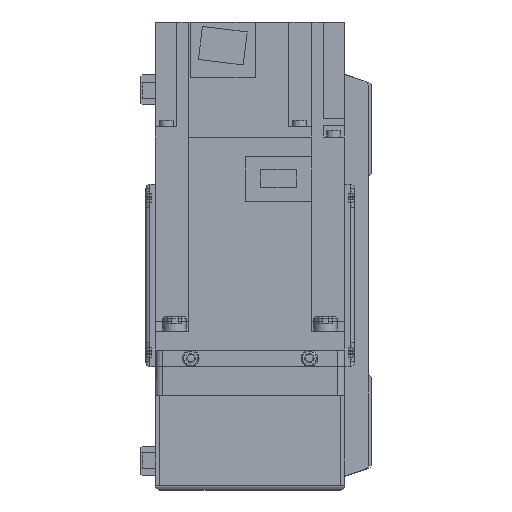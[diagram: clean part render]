
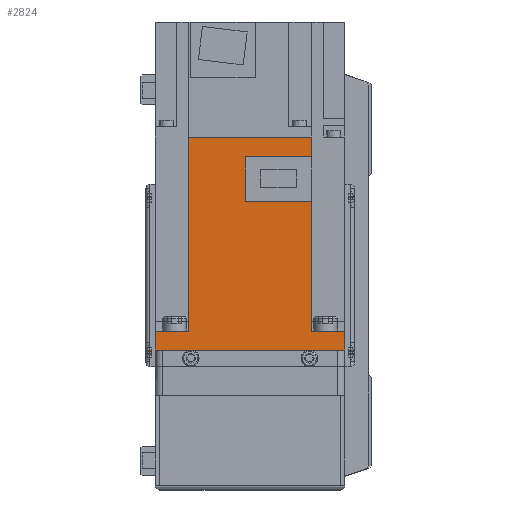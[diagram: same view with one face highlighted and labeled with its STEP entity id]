
A CAD part, left-side view. The second image highlights one B-rep face of the part: STEP entity #2824.
In plain terms, the highlighted planar face has unit normal (-1, 0, 0) as drawn and (1, 0, 0) by its records, which use the part's own axes.
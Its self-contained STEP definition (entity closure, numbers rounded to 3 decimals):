
#2824 = ADVANCED_FACE( '', ( #6148 ), #6149, .F. );
#6148 = FACE_OUTER_BOUND( '', #9828, .T. );
#6149 = PLANE( '', #9829 );
#9828 = EDGE_LOOP( '', ( #17668, #17669, #17670, #17671, #17672, #17673, #17674, #17675, #17676, #17677, #17678, #17679 ) );
#9829 = AXIS2_PLACEMENT_3D( '', #17680, #17681, #17682 );
#17668 = ORIENTED_EDGE( '', *, *, #23790, .F. );
#17669 = ORIENTED_EDGE( '', *, *, #21370, .F. );
#17670 = ORIENTED_EDGE( '', *, *, #21985, .F. );
#17671 = ORIENTED_EDGE( '', *, *, #23159, .T. );
#17672 = ORIENTED_EDGE( '', *, *, #23791, .F. );
#17673 = ORIENTED_EDGE( '', *, *, #21099, .T. );
#17674 = ORIENTED_EDGE( '', *, *, #23634, .T. );
#17675 = ORIENTED_EDGE( '', *, *, #23792, .F. );
#17676 = ORIENTED_EDGE( '', *, *, #22675, .F. );
#17677 = ORIENTED_EDGE( '', *, *, #21372, .F. );
#17678 = ORIENTED_EDGE( '', *, *, #22777, .F. );
#17679 = ORIENTED_EDGE( '', *, *, #23793, .F. );
#17680 = CARTESIAN_POINT( '', ( 40., 89.8, 40. ) );
#17681 = DIRECTION( '', ( -1., 0., 0. ) );
#17682 = DIRECTION( '', ( 0., 0., 1. ) );
#21099 = EDGE_CURVE( '', #25247, #25245, #25248, .T. );
#21370 = EDGE_CURVE( '', #25714, #25716, #25717, .T. );
#21372 = EDGE_CURVE( '', #25718, #25720, #25721, .T. );
#21985 = EDGE_CURVE( '', #26735, #25714, #26737, .T. );
#22675 = EDGE_CURVE( '', #25720, #27813, #27814, .T. );
#22777 = EDGE_CURVE( '', #27962, #25718, #27963, .T. );
#23159 = EDGE_CURVE( '', #26735, #28493, #28495, .T. );
#23634 = EDGE_CURVE( '', #25245, #29136, #29138, .T. );
#23790 = EDGE_CURVE( '', #25716, #29328, #29329, .T. );
#23791 = EDGE_CURVE( '', #25247, #28493, #29330, .T. );
#23792 = EDGE_CURVE( '', #27813, #29136, #29331, .T. );
#23793 = EDGE_CURVE( '', #29328, #27962, #29332, .T. );
#25245 = VERTEX_POINT( '', #31290 );
#25247 = VERTEX_POINT( '', #31293 );
#25248 = LINE( '', #31294, #31295 );
#25714 = VERTEX_POINT( '', #31956 );
#25716 = VERTEX_POINT( '', #31959 );
#25717 = LINE( '', #31960, #31961 );
#25718 = VERTEX_POINT( '', #31962 );
#25720 = VERTEX_POINT( '', #31965 );
#25721 = LINE( '', #31966, #31967 );
#26735 = VERTEX_POINT( '', #33547 );
#26737 = LINE( '', #33550, #33551 );
#27813 = VERTEX_POINT( '', #35231 );
#27814 = LINE( '', #35232, #35233 );
#27962 = VERTEX_POINT( '', #35452 );
#27963 = LINE( '', #35453, #35454 );
#28493 = VERTEX_POINT( '', #36290 );
#28495 = LINE( '', #36293, #36294 );
#29136 = VERTEX_POINT( '', #37376 );
#29138 = LINE( '', #37379, #37380 );
#29328 = VERTEX_POINT( '', #37671 );
#29329 = LINE( '', #37672, #37673 );
#29330 = LINE( '', #37674, #37675 );
#29331 = LINE( '', #37676, #37677 );
#29332 = LINE( '', #37678, #37679 );
#31290 = CARTESIAN_POINT( '', ( 40., 0., 40. ) );
#31293 = CARTESIAN_POINT( '', ( 40., 8., 40. ) );
#31294 = CARTESIAN_POINT( '', ( 40., 89.8, 40. ) );
#31295 = VECTOR( '', #39394, 1000. );
#31956 = CARTESIAN_POINT( '', ( 40., 89.8, -25.95 ) );
#31959 = CARTESIAN_POINT( '', ( 40., 81.4, -25.95 ) );
#31960 = CARTESIAN_POINT( '', ( 40., 158., -25.95 ) );
#31961 = VECTOR( '', #39722, 1000. );
#31962 = CARTESIAN_POINT( '', ( 40., 62.8, -25.95 ) );
#31965 = CARTESIAN_POINT( '', ( 40., 8., -25.95 ) );
#31966 = CARTESIAN_POINT( '', ( 40., 158., -25.95 ) );
#31967 = VECTOR( '', #39724, 1000. );
#33547 = CARTESIAN_POINT( '', ( 40., 89.8, 25.95 ) );
#33550 = CARTESIAN_POINT( '', ( 40., 89.8, 40. ) );
#33551 = VECTOR( '', #40507, 1000. );
#35231 = CARTESIAN_POINT( '', ( 40., 8., -40. ) );
#35232 = CARTESIAN_POINT( '', ( 40., 8., 40. ) );
#35233 = VECTOR( '', #41369, 1000. );
#35452 = CARTESIAN_POINT( '', ( 40., 62.8, 1.8 ) );
#35453 = CARTESIAN_POINT( '', ( 40., 62.8, 1.8 ) );
#35454 = VECTOR( '', #41487, 1000. );
#36290 = CARTESIAN_POINT( '', ( 40., 8., 25.95 ) );
#36293 = CARTESIAN_POINT( '', ( 40., 158., 25.95 ) );
#36294 = VECTOR( '', #41958, 1000. );
#37376 = CARTESIAN_POINT( '', ( 40., 0., -40. ) );
#37379 = CARTESIAN_POINT( '', ( 40., 0., 40. ) );
#37380 = VECTOR( '', #42471, 1000. );
#37671 = CARTESIAN_POINT( '', ( 40., 81.4, 1.8 ) );
#37672 = CARTESIAN_POINT( '', ( 40., 81.4, -26. ) );
#37673 = VECTOR( '', #42622, 1000. );
#37674 = CARTESIAN_POINT( '', ( 40., 8., 40. ) );
#37675 = VECTOR( '', #42623, 1000. );
#37676 = CARTESIAN_POINT( '', ( 40., 89.8, -40. ) );
#37677 = VECTOR( '', #42624, 1000. );
#37678 = CARTESIAN_POINT( '', ( 40., 81.4, 1.8 ) );
#37679 = VECTOR( '', #42625, 1000. );
#39394 = DIRECTION( '', ( 0., -1., 0. ) );
#39722 = DIRECTION( '', ( 0., -1., 0. ) );
#39724 = DIRECTION( '', ( 0., -1., 0. ) );
#40507 = DIRECTION( '', ( 0., 0., -1. ) );
#41369 = DIRECTION( '', ( 0., 0., -1. ) );
#41487 = DIRECTION( '', ( 0., 0., -1. ) );
#41958 = DIRECTION( '', ( 0., -1., 0. ) );
#42471 = DIRECTION( '', ( 0., 0., -1. ) );
#42622 = DIRECTION( '', ( 0., 0., 1. ) );
#42623 = DIRECTION( '', ( 0., 0., -1. ) );
#42624 = DIRECTION( '', ( 0., -1., 0. ) );
#42625 = DIRECTION( '', ( 0., -1., 0. ) );
